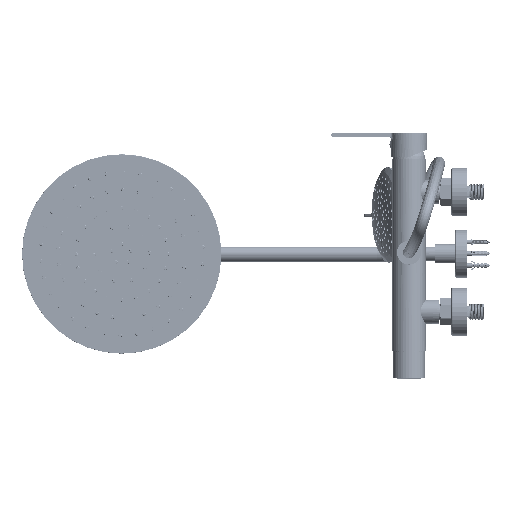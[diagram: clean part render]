
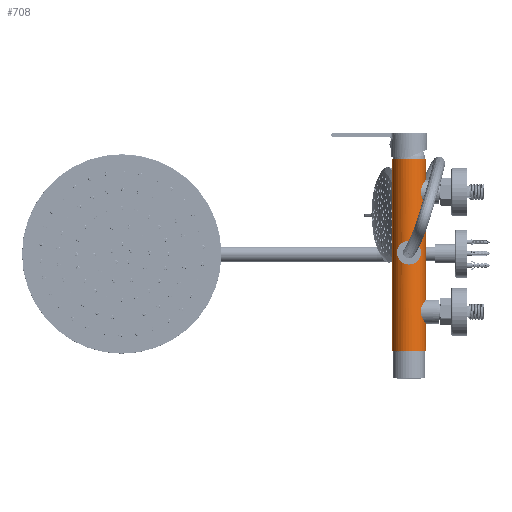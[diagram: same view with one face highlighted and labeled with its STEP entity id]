
A CAD part, top view. The second image highlights one B-rep face of the part: STEP entity #708.
In plain terms, the highlighted cylindrical face has radius 21 mm (diameter 42 mm), a partial arc.
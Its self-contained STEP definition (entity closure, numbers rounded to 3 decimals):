
#59=CARTESIAN_POINT('',(21.,45.,0.));
#65=CARTESIAN_POINT('',(21.,55.,0.));
#180=CARTESIAN_POINT('',(19.799,193.75,7.));
#181=CARTESIAN_POINT('',(19.661,193.75,7.39));
#182=CARTESIAN_POINT('',(19.371,193.852,8.141));
#183=CARTESIAN_POINT('',(18.874,194.319,9.231));
#184=CARTESIAN_POINT('',(18.403,195.05,10.128));
#185=CARTESIAN_POINT('',(18.026,195.954,10.778));
#186=CARTESIAN_POINT('',(17.786,196.961,11.166));
#187=CARTESIAN_POINT('',(17.705,198.,11.292));
#188=CARTESIAN_POINT('',(17.786,199.04,11.166));
#189=CARTESIAN_POINT('',(18.027,200.047,10.778));
#190=CARTESIAN_POINT('',(18.404,200.952,10.126));
#191=CARTESIAN_POINT('',(18.876,201.683,9.227));
#192=CARTESIAN_POINT('',(19.37,202.148,8.141));
#193=CARTESIAN_POINT('',(19.661,202.25,7.39));
#194=CARTESIAN_POINT('',(19.799,202.25,7.));
#196=CARTESIAN_POINT('',(19.799,202.25,7.));
#197=CARTESIAN_POINT('',(19.934,202.25,6.619));
#198=CARTESIAN_POINT('',(20.169,202.151,5.884));
#199=CARTESIAN_POINT('',(20.442,201.72,4.844));
#200=CARTESIAN_POINT('',(20.629,201.038,3.959));
#201=CARTESIAN_POINT('',(20.745,200.152,3.279));
#202=CARTESIAN_POINT('',(20.807,199.116,2.848));
#203=CARTESIAN_POINT('',(20.825,198.002,2.701));
#204=CARTESIAN_POINT('',(20.807,196.887,2.848));
#205=CARTESIAN_POINT('',(20.745,195.849,3.278));
#206=CARTESIAN_POINT('',(20.629,194.963,3.958));
#207=CARTESIAN_POINT('',(20.442,194.281,4.844));
#208=CARTESIAN_POINT('',(20.169,193.849,5.884));
#209=CARTESIAN_POINT('',(19.934,193.75,6.619));
#210=CARTESIAN_POINT('',(19.799,193.75,7.));
#212=CARTESIAN_POINT('',(0.,114.9,21.));
#213=CARTESIAN_POINT('',(-0.563,114.9,21.));
#214=CARTESIAN_POINT('',(-1.687,114.999,20.957));
#215=CARTESIAN_POINT('',(-3.453,115.516,20.738));
#216=CARTESIAN_POINT('',(-4.995,116.33,20.415));
#217=CARTESIAN_POINT('',(-6.342,117.399,20.034));
#218=CARTESIAN_POINT('',(-7.466,118.702,19.638));
#219=CARTESIAN_POINT('',(-8.35,120.236,19.274));
#220=CARTESIAN_POINT('',(-8.939,121.98,19.004));
#221=CARTESIAN_POINT('',(-9.165,123.868,18.894));
#222=CARTESIAN_POINT('',(-8.995,125.756,18.977));
#223=CARTESIAN_POINT('',(-8.449,127.542,19.231));
#224=CARTESIAN_POINT('',(-7.591,129.121,19.59));
#225=CARTESIAN_POINT('',(-6.467,130.482,19.994));
#226=CARTESIAN_POINT('',(-5.11,131.597,20.387));
#227=CARTESIAN_POINT('',(-3.54,132.452,20.724));
#228=CARTESIAN_POINT('',(-1.719,132.999,20.956));
#229=CARTESIAN_POINT('',(-0.573,133.1,21.));
#230=CARTESIAN_POINT('',(0.,133.1,21.));
#232=CARTESIAN_POINT('',(0.,133.1,21.));
#233=CARTESIAN_POINT('',(0.564,133.1,21.));
#234=CARTESIAN_POINT('',(1.691,133.001,20.957));
#235=CARTESIAN_POINT('',(3.462,132.481,20.736));
#236=CARTESIAN_POINT('',(5.006,131.664,20.412));
#237=CARTESIAN_POINT('',(6.353,130.59,20.03));
#238=CARTESIAN_POINT('',(7.477,129.283,19.634));
#239=CARTESIAN_POINT('',(8.359,127.745,19.27));
#240=CARTESIAN_POINT('',(8.944,125.998,19.002));
#241=CARTESIAN_POINT('',(9.165,124.114,18.894));
#242=CARTESIAN_POINT('',(8.992,122.234,18.978));
#243=CARTESIAN_POINT('',(8.447,120.455,19.231));
#244=CARTESIAN_POINT('',(7.59,118.877,19.59));
#245=CARTESIAN_POINT('',(6.466,117.517,19.994));
#246=CARTESIAN_POINT('',(5.109,116.402,20.387));
#247=CARTESIAN_POINT('',(3.541,115.548,20.724));
#248=CARTESIAN_POINT('',(1.721,115.002,20.955));
#249=CARTESIAN_POINT('',(0.574,114.9,21.));
#250=CARTESIAN_POINT('',(0.,114.9,21.));
#252=CARTESIAN_POINT('',(0.,0.5,0.));
#253=DIRECTION('',(0.,1.,0.));
#254=DIRECTION('',(-1.,0.,0.));
#255=AXIS2_PLACEMENT_3D('',#252,#253,#254);
#257=DIRECTION('',(0.,1.,0.));
#258=VECTOR('',#257,241.);
#259=CARTESIAN_POINT('',(-21.,0.5,0.));
#260=LINE('',#259,#258);
#261=CARTESIAN_POINT('',(0.,241.5,0.));
#262=DIRECTION('',(0.,1.,0.));
#263=DIRECTION('',(-1.,0.,0.));
#264=AXIS2_PLACEMENT_3D('',#261,#262,#263);
#266=DIRECTION('',(0.,1.,0.));
#267=VECTOR('',#266,186.5);
#268=CARTESIAN_POINT('',(21.,55.,0.));
#269=LINE('',#268,#267);
#270=CARTESIAN_POINT('',(20.565,50.75,4.25));
#271=CARTESIAN_POINT('',(20.565,51.07,4.25));
#272=CARTESIAN_POINT('',(20.58,51.693,4.18));
#273=CARTESIAN_POINT('',(20.642,52.594,3.868));
#274=CARTESIAN_POINT('',(20.732,53.407,3.364));
#275=CARTESIAN_POINT('',(20.833,54.097,2.677));
#276=CARTESIAN_POINT('',(20.922,54.604,1.877));
#277=CARTESIAN_POINT('',(20.986,54.931,0.945));
#278=CARTESIAN_POINT('',(21.,55.,0.32));
#279=CARTESIAN_POINT('',(21.,55.,0.));
#281=DIRECTION('',(0.,1.,0.));
#282=VECTOR('',#281,1.5);
#283=CARTESIAN_POINT('',(20.565,49.25,4.25));
#284=LINE('',#283,#282);
#285=CARTESIAN_POINT('',(21.,45.,0.));
#286=CARTESIAN_POINT('',(21.,45.,0.374));
#287=CARTESIAN_POINT('',(20.981,45.094,1.099));
#288=CARTESIAN_POINT('',(20.897,45.53,2.157));
#289=CARTESIAN_POINT('',(20.784,46.212,3.041));
#290=CARTESIAN_POINT('',(20.669,47.109,3.73));
#291=CARTESIAN_POINT('',(20.585,48.156,4.156));
#292=CARTESIAN_POINT('',(20.565,48.877,4.25));
#293=CARTESIAN_POINT('',(20.565,49.25,4.25));
#295=DIRECTION('',(0.,1.,0.));
#296=VECTOR('',#295,44.5);
#297=CARTESIAN_POINT('',(21.,0.5,0.));
#298=LINE('',#297,#296);
#518=CARTESIAN_POINT('',(0.,133.1,21.));
#520=VERTEX_POINT('',#518);
#522=CARTESIAN_POINT('',(0.,114.9,21.));
#524=VERTEX_POINT('',#522);
#525=CARTESIAN_POINT('',(19.799,202.25,7.));
#527=VERTEX_POINT('',#525);
#529=CARTESIAN_POINT('',(19.799,193.75,7.));
#531=VERTEX_POINT('',#529);
#534=VERTEX_POINT('',#59);
#537=VERTEX_POINT('',#65);
#543=VERTEX_POINT('',#293);
#544=VERTEX_POINT('',#270);
#557=CARTESIAN_POINT('',(21.,241.5,0.));
#558=CARTESIAN_POINT('',(-21.,241.5,0.));
#559=VERTEX_POINT('',#557);
#560=VERTEX_POINT('',#558);
#565=CARTESIAN_POINT('',(21.,0.5,0.));
#566=CARTESIAN_POINT('',(-21.,0.5,0.));
#567=VERTEX_POINT('',#565);
#568=VERTEX_POINT('',#566);
#677=CARTESIAN_POINT('',(0.,-12.1,0.));
#678=DIRECTION('',(0.,1.,0.));
#679=DIRECTION('',(1.,0.,0.));
#680=AXIS2_PLACEMENT_3D('',#677,#678,#679);
#681=CYLINDRICAL_SURFACE('',#680,21.);
#683=ORIENTED_EDGE('',*,*,#682,.F.);
#684=ORIENTED_EDGE('',*,*,#592,.T.);
#686=ORIENTED_EDGE('',*,*,#685,.T.);
#687=ORIENTED_EDGE('',*,*,#588,.F.);
#689=ORIENTED_EDGE('',*,*,#688,.F.);
#691=ORIENTED_EDGE('',*,*,#690,.F.);
#692=ORIENTED_EDGE('',*,*,#665,.F.);
#693=ORIENTED_EDGE('',*,*,#580,.F.);
#694=EDGE_LOOP('',(#683,#684,#686,#687,#689,#691,#692,#693));
#695=FACE_OUTER_BOUND('',#694,.F.);
#697=ORIENTED_EDGE('',*,*,#696,.F.);
#699=ORIENTED_EDGE('',*,*,#698,.F.);
#700=EDGE_LOOP('',(#697,#699));
#701=FACE_BOUND('',#700,.F.);
#703=ORIENTED_EDGE('',*,*,#702,.F.);
#705=ORIENTED_EDGE('',*,*,#704,.F.);
#706=EDGE_LOOP('',(#703,#705));
#707=FACE_BOUND('',#706,.F.);
#195=B_SPLINE_CURVE_WITH_KNOTS('',3,(#180,#181,#182,#183,#184,#185,#186,#187,
#188,#189,#190,#191,#192,#193,#194),.UNSPECIFIED.,.F.,.F.,(4,1,1,1,1,1,1,1,1,1,
1,1,4),(0.,0.083,0.167,0.25,0.333,
0.417,0.5,0.583,0.667,0.75,
0.833,0.917,1.),.UNSPECIFIED.);
#211=B_SPLINE_CURVE_WITH_KNOTS('',3,(#196,#197,#198,#199,#200,#201,#202,#203,
#204,#205,#206,#207,#208,#209,#210),.UNSPECIFIED.,.F.,.F.,(4,1,1,1,1,1,1,1,1,1,
1,1,4),(0.,0.083,0.167,0.25,0.333,
0.417,0.5,0.583,0.667,0.75,
0.833,0.917,1.),.UNSPECIFIED.);
#231=B_SPLINE_CURVE_WITH_KNOTS('',3,(#212,#213,#214,#215,#216,#217,#218,#219,
#220,#221,#222,#223,#224,#225,#226,#227,#228,#229,#230),.UNSPECIFIED.,.F.,.F.,
(4,1,1,1,1,1,1,1,1,1,1,1,1,1,1,1,4),(0.,0.063,0.125,0.188,0.25,
0.313,0.375,0.438,0.5,0.563,0.625,0.688,0.75,0.813,
0.875,0.938,1.),.UNSPECIFIED.);
#251=B_SPLINE_CURVE_WITH_KNOTS('',3,(#232,#233,#234,#235,#236,#237,#238,#239,
#240,#241,#242,#243,#244,#245,#246,#247,#248,#249,#250),.UNSPECIFIED.,.F.,.F.,
(4,1,1,1,1,1,1,1,1,1,1,1,1,1,1,1,4),(0.,0.063,0.125,0.188,0.25,
0.313,0.375,0.438,0.5,0.563,0.625,0.688,0.75,0.813,
0.875,0.938,1.),.UNSPECIFIED.);
#256=CIRCLE('',#255,21.);
#265=CIRCLE('',#264,21.);
#280=B_SPLINE_CURVE_WITH_KNOTS('',3,(#270,#271,#272,#273,#274,#275,#276,#277,
#278,#279),.UNSPECIFIED.,.F.,.F.,(4,1,1,1,1,1,1,4),(0.,0.143,
0.286,0.429,0.571,0.714,
0.857,1.),.UNSPECIFIED.);
#294=B_SPLINE_CURVE_WITH_KNOTS('',3,(#285,#286,#287,#288,#289,#290,#291,#292,
#293),.UNSPECIFIED.,.F.,.F.,(4,1,1,1,1,1,4),(0.,0.167,
0.333,0.5,0.667,0.833,1.),
.UNSPECIFIED.);
#580=EDGE_CURVE('',#567,#534,#298,.T.);
#588=EDGE_CURVE('',#537,#559,#269,.T.);
#592=EDGE_CURVE('',#568,#560,#260,.T.);
#665=EDGE_CURVE('',#534,#543,#294,.T.);
#682=EDGE_CURVE('',#568,#567,#256,.T.);
#685=EDGE_CURVE('',#560,#559,#265,.T.);
#688=EDGE_CURVE('',#544,#537,#280,.T.);
#690=EDGE_CURVE('',#543,#544,#284,.T.);
#696=EDGE_CURVE('',#524,#520,#231,.T.);
#698=EDGE_CURVE('',#520,#524,#251,.T.);
#702=EDGE_CURVE('',#531,#527,#195,.T.);
#704=EDGE_CURVE('',#527,#531,#211,.T.);
#708=ADVANCED_FACE('',(#695,#701,#707),#681,.T.);
